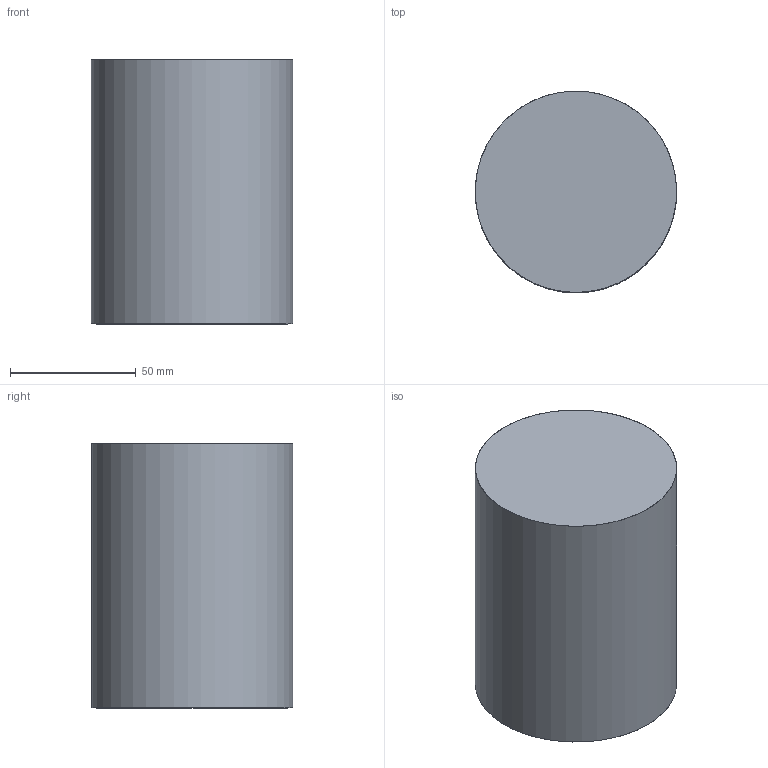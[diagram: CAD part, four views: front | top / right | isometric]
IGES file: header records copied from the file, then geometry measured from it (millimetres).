
Global section: file name: C:\Users\EQUIPO\Desktop\COLECCIONES ACB MODELADAS 3D OK\SOUL\soul-3792-8-gu10 (IGES).igs; native system: Rhinoceros ( Oct  8 2013 ); preprocessor: Trout Lake IGES 012 Oct  8 2013; date: 190207.105306; units: millimetre
Bounding box: 79.97 x 79.99 x 105.11 mm (x, y, z)
Surface area: 94652.2 mm2 (no closed solid volume)
Topology: 0 solids, 0 shells, 42 faces, 237 edges, 225 vertices
Faces by surface type: bspline 42
